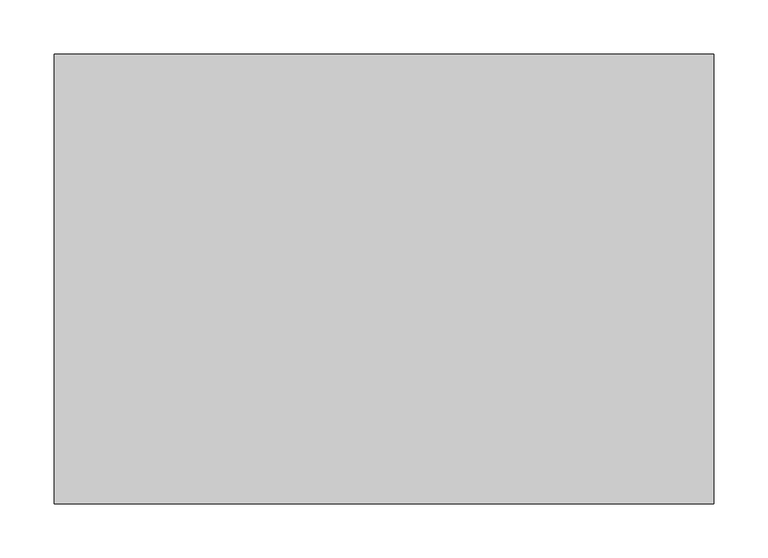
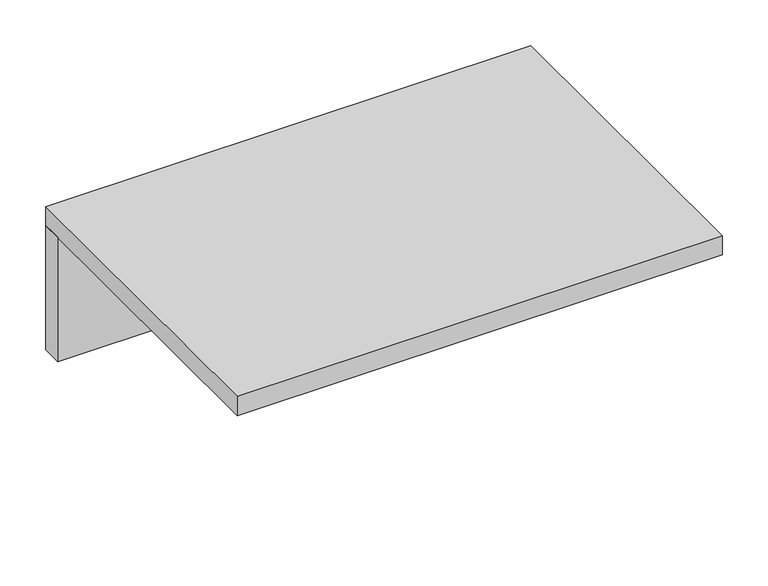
"""IFC4 building model written with IfcOpenShell, lengths in millimetres: furniture geometry."""

from ifc_helpers import new_model, si_unit, frame, origin, place, context, project, spatial, polyline, outline, extrude, source, transform, mapped, element, save


def furniture_a86162da(model_context):
    return source(origin(), model_context, "Body", "SweptSolid", [
        extrude(outline(polyline([(304.8, 207.9625), (304.8, 182.5625), (-304.8, 182.5625), (-304.8, 207.9625), (304.8, 207.9625)])), frame((0.0, 0.0, 889.0), z_axis=(0.0, 0.0, 1.0), x_axis=(1.0, 0.0, 0.0)), (0.0, 0.0, 1.0), 165.1),
        extrude(outline(polyline([(304.8, -207.9625), (-304.8, -207.9625), (-304.8, 207.9625), (304.8, 207.9625), (304.8, -207.9625)])), frame((0.0, 0.0, 1054.1), z_axis=(0.0, 0.0, 1.0), x_axis=(1.0, 0.0, 0.0)), (0.0, 0.0, 1.0), 25.4),
    ])


if __name__ == "__main__":
    model = new_model("IFC4")
    model_context = context("Model", 3, world=origin())
    ifc_project = project(units=[si_unit("LENGTHUNIT", "METRE", prefix="MILLI")], contexts=[model_context])
    site = spatial("IfcSite", under=ifc_project)
    building = spatial("IfcBuilding", under=site)
    placement = place(None, origin())
    furniture_shape = furniture_a86162da(model_context)
    element("IfcFurniture", 1, ObjectType="HermanMiller_Ethospace_E2830_SqEdgeCounterTop : 7-1/2\"H x 16-3/8\"D x 24\"W", at=placement, inside=building, context=model_context, shape_type="MappedRepresentation", body=[
        mapped(furniture_shape, transform((0.0, 0.0, 0.0), x_axis=(1.0, 0.0, 0.0), y_axis=(0.0, 1.0, 0.0), z_axis=(0.0, 0.0, 1.0))),
    ])
    save(model, "model.ifc")
